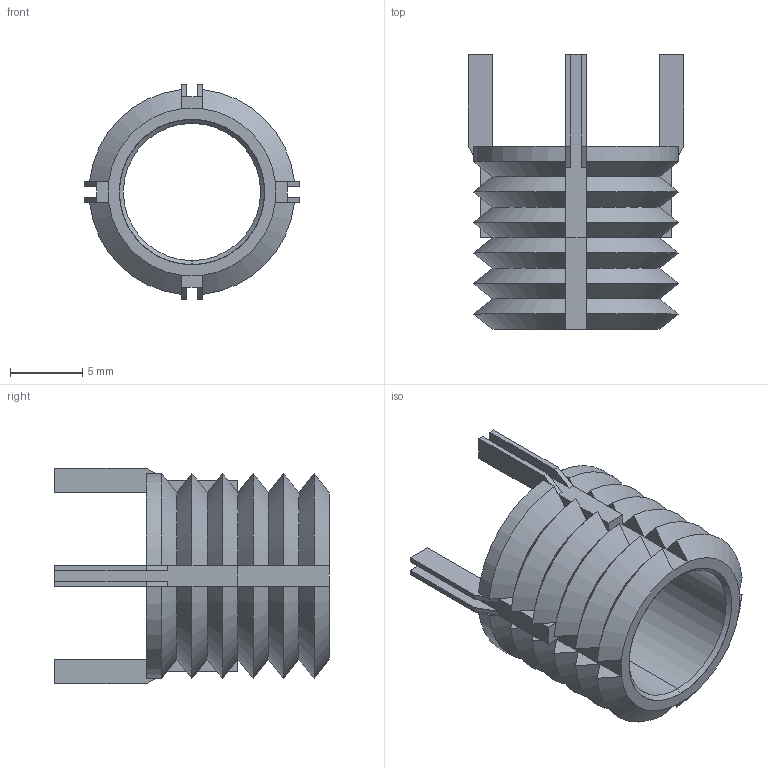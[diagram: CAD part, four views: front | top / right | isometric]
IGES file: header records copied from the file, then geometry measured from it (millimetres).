
Start section: SolidWorks IGES file using analytic representation for surfaces
Global section: file name: C:\Users\IanO\Desktop\TR1575\TR1575_v2_20230420_IGES\TR1575.66104.igs; native system: SolidWorks 2019; preprocessor: SolidWorks 2019; author: IanO; date: 230420.093406; units: inch
Bounding box: 14.94 x 19.05 x 14.94 mm (x, y, z)
Surface area: 1666.2 mm2 (no closed solid volume)
Topology: 0 solids, 0 shells, 156 faces, 808 edges, 808 vertices
Faces by surface type: bspline 102, revolution 54
